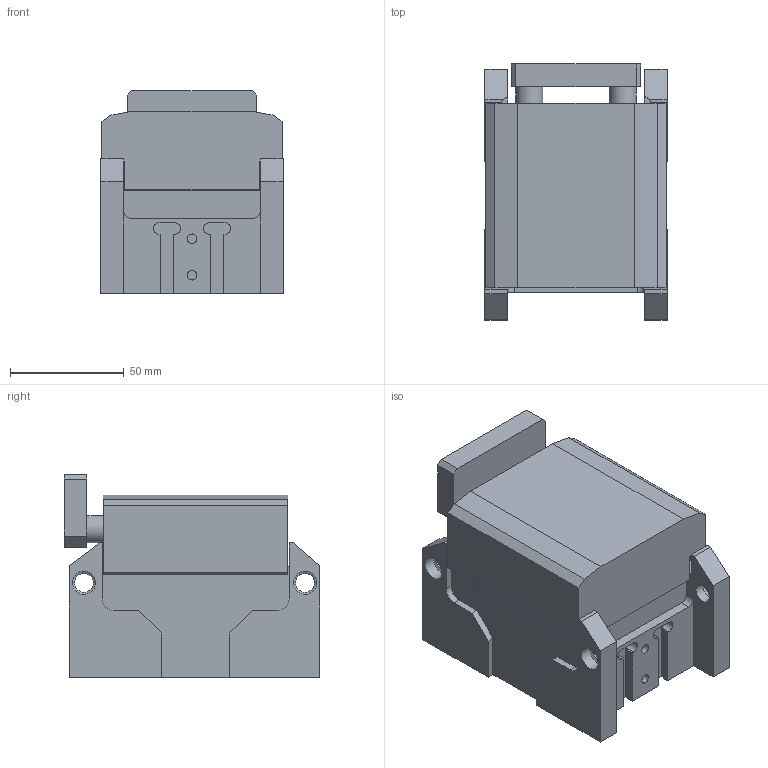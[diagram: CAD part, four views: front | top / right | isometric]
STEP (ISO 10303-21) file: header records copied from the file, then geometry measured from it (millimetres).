
FILE_DESCRIPTION(/* description */ ('Stopper SD-160-DW-09-E'),/* implementation_level */ '2;1');
FILE_NAME(/* name */ 'C:\Marketing\01_Versamove-SPU_STEP-Dateien-Homepage\Versamove plus\Stopper\K503021161_Stopper_SD-160-EW-09.stp',/* time_stamp */ '2017-02-01T13:32:44+01:00',/* author */ ('herbert.engels'),/* organization */ (''),/* preprocessor_version */ 'ST-DEVELOPER v15.6',/* originating_system */ 'Autodesk Inventor 2015',/* authorisation */ '');
FILE_SCHEMA (('CONFIG_CONTROL_DESIGN'));
Length unit declared in the file: millimetre
Products named in the file (1): T-ENG556637
Bounding box: 80 x 112.2 x 89 mm (x, y, z)
Volume: 480000 mm3; surface area: 80349.4 mm2
Topology: 2 solids, 5 shells, 159 faces, 423 edges, 282 vertices
Faces by surface type: plane 113, cylinder 38, cone 8
Full cylindrical faces by diameter (mm): 4.2 x4, 6.8 x4, 8.2 x4, 10.2 x4, 12 x4, 15 x1, 15.08 x1
Entity records: 4885 total; most frequent: CARTESIAN_POINT 854, DIRECTION 773, ORIENTED_EDGE 756, EDGE_CURVE 378, LINE 301, VECTOR 301, VERTEX_POINT 267, AXIS2_PLACEMENT_3D 236
